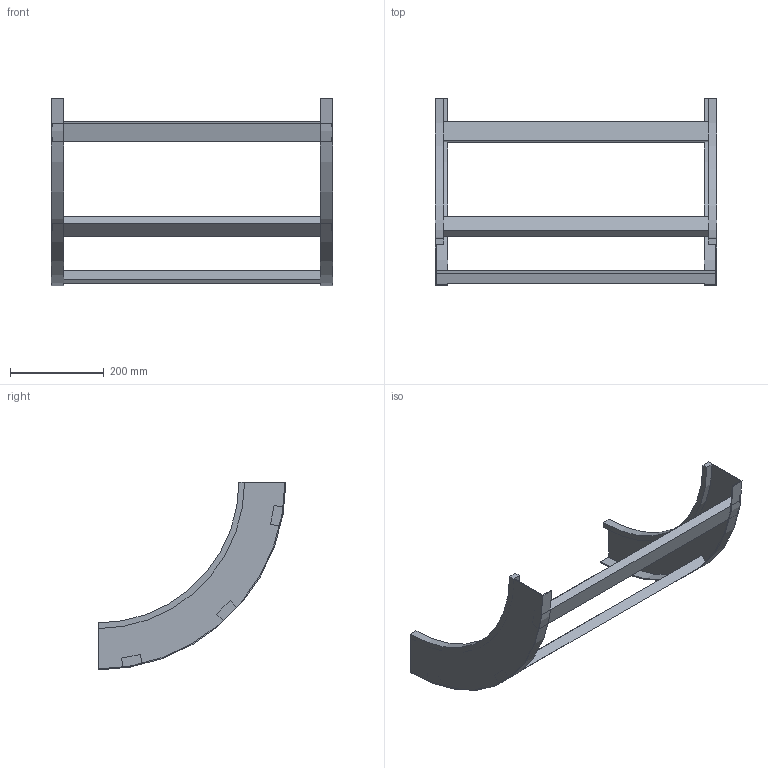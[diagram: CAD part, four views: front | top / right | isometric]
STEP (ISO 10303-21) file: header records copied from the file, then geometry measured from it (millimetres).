
FILE_DESCRIPTION (( 'STEP AP214' ), '1' );
FILE_NAME ('B2X30B3D600XX.step', '2025-03-20T10:20:21', ( '' ), ( '' ), 'SwSTEP 2.0', 'SolidWorks 2023', '' );
FILE_SCHEMA (( 'AUTOMOTIVE_DESIGN' ));
Length unit declared in the file: millimetre
Products named in the file (3): TRAVERSINO_600; B2X30B3D600XX; B2_LONGH.SALITA_90°_H100_R300
Assembly tree (5 placements, depth 2):
  B2X30B3D600XX
    B2_LONGH.SALITA_90°_H100_R300  x2
    TRAVERSINO_600  x3
Bounding box: 600 x 400 x 400 mm (x, y, z)
Volume: 1915441.1 mm3; surface area: 540723 mm2
Topology: 5 solids, 5 shells, 38 faces, 84 edges, 56 vertices
Faces by surface type: plane 30, cylinder 8
Entity records: 560 total; most frequent: DIRECTION 92, CARTESIAN_POINT 84, ORIENTED_EDGE 72, EDGE_CURVE 36, AXIS2_PLACEMENT_3D 32, VECTOR 28, LINE 28, VERTEX_POINT 24
